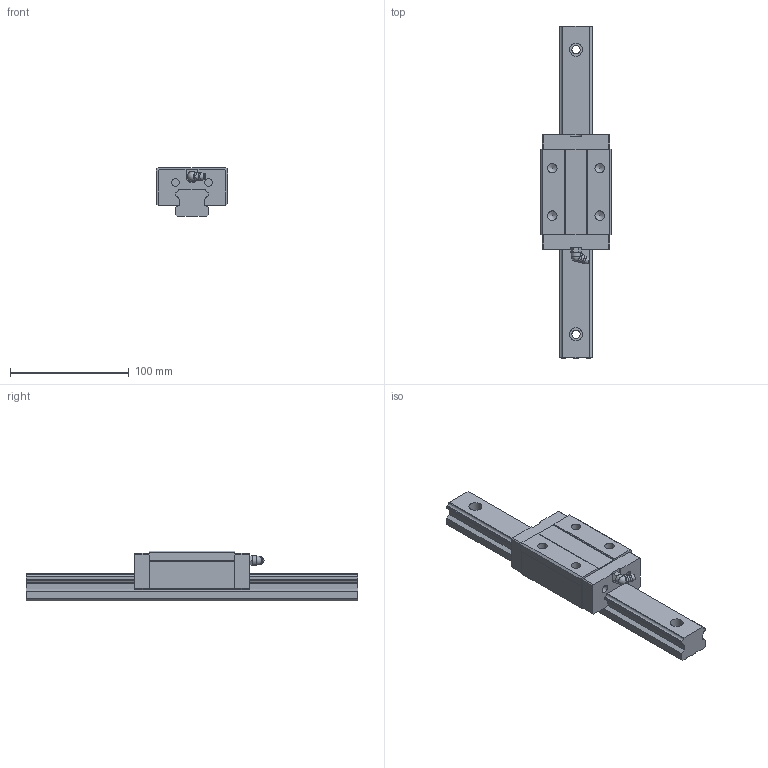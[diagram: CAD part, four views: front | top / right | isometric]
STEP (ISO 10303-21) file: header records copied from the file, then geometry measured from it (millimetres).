
FILE_DESCRIPTION(/* description */ (''),/* implementation_level */ '2;1');
FILE_NAME(/* name */ 'MSB30S',/* time_stamp */ '2004-05-24T09:14:17+08:00',/* author */ (''),/* organization */ (''),/* preprocessor_version */ 'ST-DEVELOPER v8',/* originating_system */ '',/* authorisation */ '');
FILE_SCHEMA (('CONFIG_CONTROL_DESIGN'));
Length unit declared in the file: millimetre
Products named in the file (1): zirc812C0008
Bounding box: 60 x 280 x 42 mm (x, y, z)
Volume: 300133.4 mm3; surface area: 59775.9 mm2
Topology: 3 solids, 3 shells, 173 faces, 475 edges, 314 vertices
Faces by surface type: plane 127, cylinder 31, torus 7, cone 5, sphere 2, bspline 1
Full cylindrical faces by diameter (mm): 6.5 x6, 7 x4, 8 x5, 11 x4
Entity records: 5373 total; most frequent: CARTESIAN_POINT 1032, DIRECTION 864, ORIENTED_EDGE 858, EDGE_CURVE 429, LINE 304, VECTOR 304, VERTEX_POINT 300, AXIS2_PLACEMENT_3D 280
